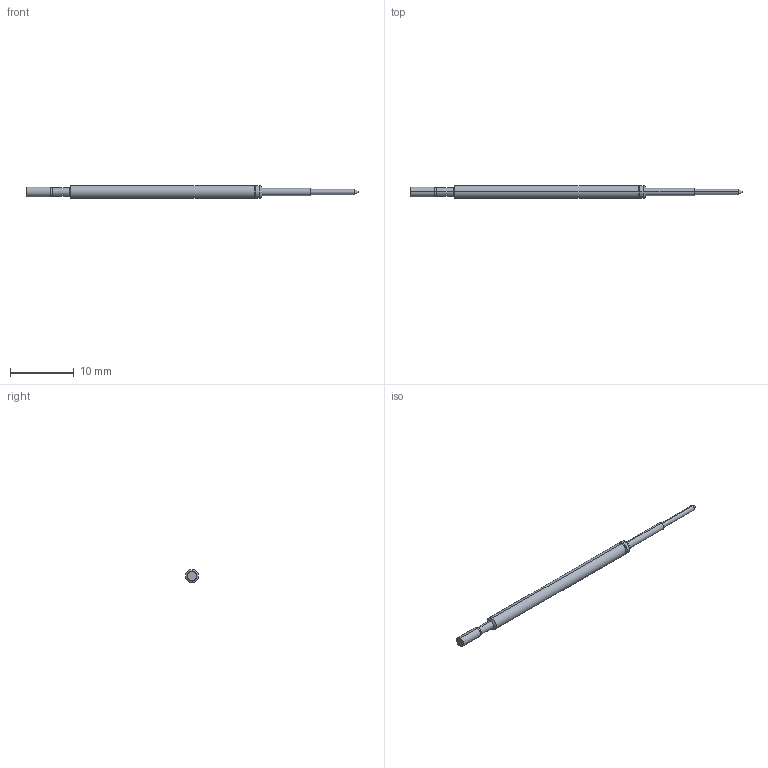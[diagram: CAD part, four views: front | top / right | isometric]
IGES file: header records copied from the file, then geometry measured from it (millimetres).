
Start section: SolidWorks IGES file using analytic representation for surfaces
Global section: file name: Y:\probe solid model mockups\Solidworks models\IGES Files\MSP-3C IGES files\MSP-3C RECD.IGS; native system: SolidWorks 2015; preprocessor: SolidWorks 2015; author: adalager; date: 171129.100111; units: inch
Bounding box: 52.2 x 2.03 x 2.03 mm (x, y, z)
Surface area: 274.7 mm2 (no closed solid volume)
Topology: 0 solids, 0 shells, 27 faces, 160 edges, 160 vertices
Faces by surface type: revolution 18, bspline 9
